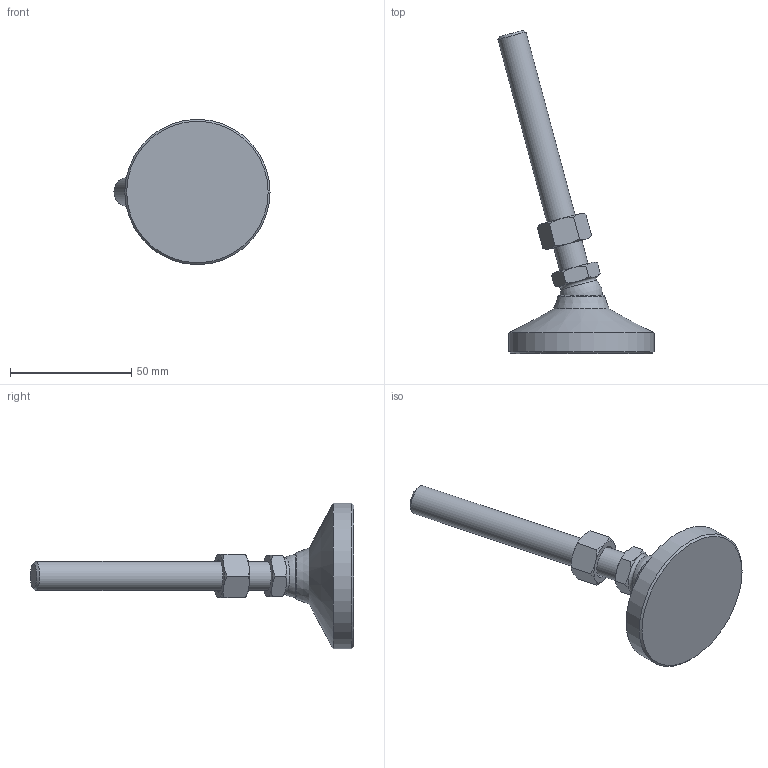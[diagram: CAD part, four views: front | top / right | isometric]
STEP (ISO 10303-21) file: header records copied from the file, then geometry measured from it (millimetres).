
FILE_DESCRIPTION( ( 'STEP AP214' ), ' ' );
FILE_NAME( 'O:/ganter_2015/teil_2/2_5/gn343_2/gn343_2_os/Levelling foot with threaded stud GN 343.2-60-M12-100-OS-(15).stp', '2015-10-26T09:08:26', ( '' ), ( '' ), ' ', 'PARTsolutions', ' ' );
FILE_SCHEMA( ( 'AUTOMOTIVE_DESIGN { 1 0 10303 214 1 1 1 1 }' ) );
Length unit declared in the file: millimetre
Products named in the file (4): Levelling foot with threaded stud GN 343.2-60-M12-100-OS-(15); _Levelling foot with threaded stud GN 343.2-60-M12-100-OS-(15)_foot; _Levelling foot with threaded stud GN 343.2-60-M12-100-OS-(15)_screw; _Stainless Steel-Levelling feet GN 343.2-60-M12-100-OS-(15)_nut
Assembly tree (3 placements, depth 2):
  Levelling foot with threaded stud GN 343.2-60-M12-100-OS-(15)
    _Levelling foot with threaded stud GN 343.2-60-M12-100-OS-(15)_foot
    _Levelling foot with threaded stud GN 343.2-60-M12-100-OS-(15)_screw
    _Stainless Steel-Levelling feet GN 343.2-60-M12-100-OS-(15)_nut
Bounding box: 64.47 x 133.49 x 60 mm (x, y, z)
Volume: 56351.5 mm3; surface area: 14490.9 mm2
Topology: 3 solids, 3 shells, 55 faces, 116 edges, 67 vertices
Faces by surface type: cone 30, plane 18, cylinder 3, torus 2, sphere 2
Full cylindrical faces by diameter (mm): 10.106 x1, 12 x1, 60 x1
Entity records: 2038 total; most frequent: CARTESIAN_POINT 495, DIRECTION 208, ORIENTED_EDGE 198, EDGE_CURVE 99, AXIS2_PLACEMENT_3D 98, EDGE_LOOP 70, VERTEX_POINT 65, FACE_OUTER_BOUND 60
